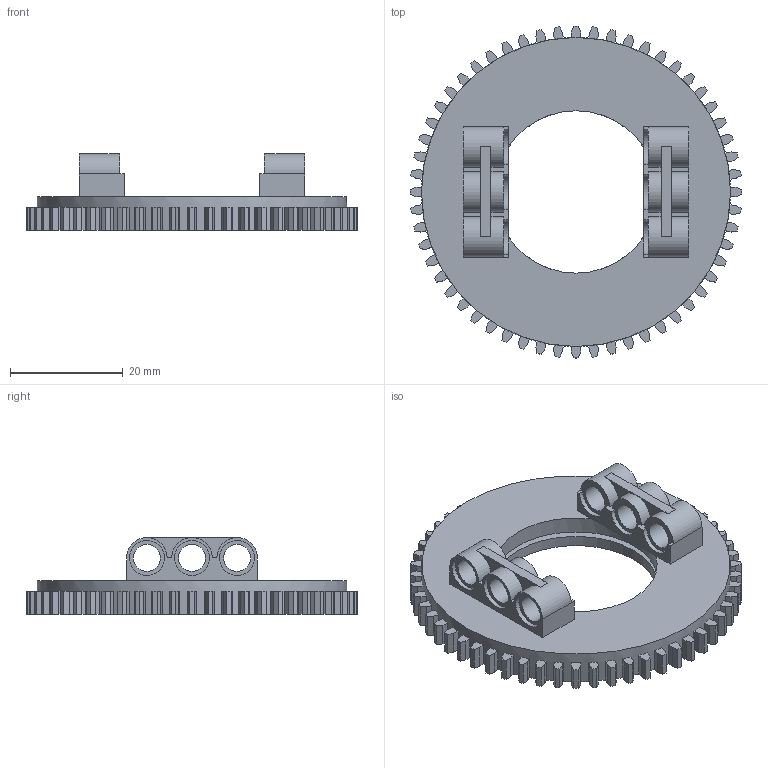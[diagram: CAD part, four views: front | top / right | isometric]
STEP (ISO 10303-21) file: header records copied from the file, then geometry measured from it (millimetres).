
FILE_DESCRIPTION(/* description */ ('Unknown'),/* implementation_level */ '2;1');
FILE_NAME(/* name */ 'Black_4624645_b)_JCA',/* time_stamp */ '2025-07-21T23:48:23+02:00',/* author */ ('Unknown'),/* organization */ ('Unknown'),/* preprocessor_version */ 'ST-DEVELOPER v19.4',/* originating_system */ 'Solid Edge',/* authorisation */ 'Unknown');
FILE_SCHEMA (('AUTOMOTIVE_DESIGN {1 0 10303 214 3 1 1}'));
Length unit declared in the file: millimetre
Products named in the file (1): Black_4624645_b)_JCA
Bounding box: 58.87 x 58.87 x 13.6 mm (x, y, z)
Volume: 12212.7 mm3; surface area: 8031.2 mm2
Topology: 1 solids, 1 shells, 414 faces, 1212 edges, 808 vertices
Faces by surface type: plane 328, cylinder 86
Full cylindrical faces by diameter (mm): 4.8 x6, 6.2 x6, 28.8 x2, 32.82 x1, 54.8 x1
Entity records: 13586 total; most frequent: CARTESIAN_POINT 2391, ORIENTED_EDGE 2364, DIRECTION 2310, EDGE_CURVE 1182, LINE 884, VECTOR 884, VERTEX_POINT 794, AXIS2_PLACEMENT_3D 713
